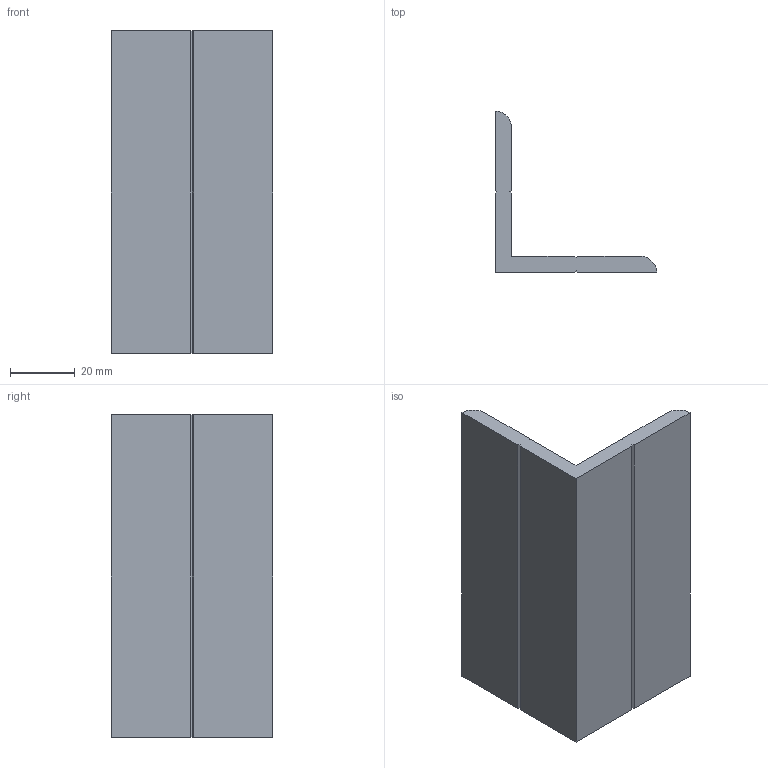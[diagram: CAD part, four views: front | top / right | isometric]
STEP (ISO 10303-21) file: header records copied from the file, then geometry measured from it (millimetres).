
FILE_DESCRIPTION (( 'STEP AP203' ), '1' );
FILE_NAME ('WL5050.STEP', '2024-02-19T12:07:15', ( '' ), ( '' ), 'SwSTEP 2.0', 'SolidWorks 2022', '' );
FILE_SCHEMA (( 'CONFIG_CONTROL_DESIGN' ));
Length unit declared in the file: millimetre
Products named in the file (1): WL5050
Bounding box: 50 x 50 x 100 mm (x, y, z)
Volume: 46327 mm3; surface area: 20663 mm2
Topology: 1 solids, 1 shells, 20 faces, 54 edges, 36 vertices
Faces by surface type: plane 18, cylinder 2
Entity records: 699 total; most frequent: CARTESIAN_POINT 111, ORIENTED_EDGE 108, DIRECTION 100, EDGE_CURVE 54, LINE 50, VECTOR 50, VERTEX_POINT 36, AXIS2_PLACEMENT_3D 25
